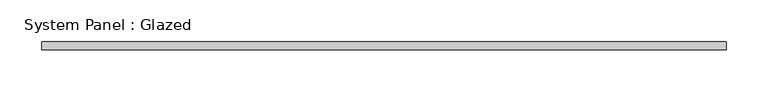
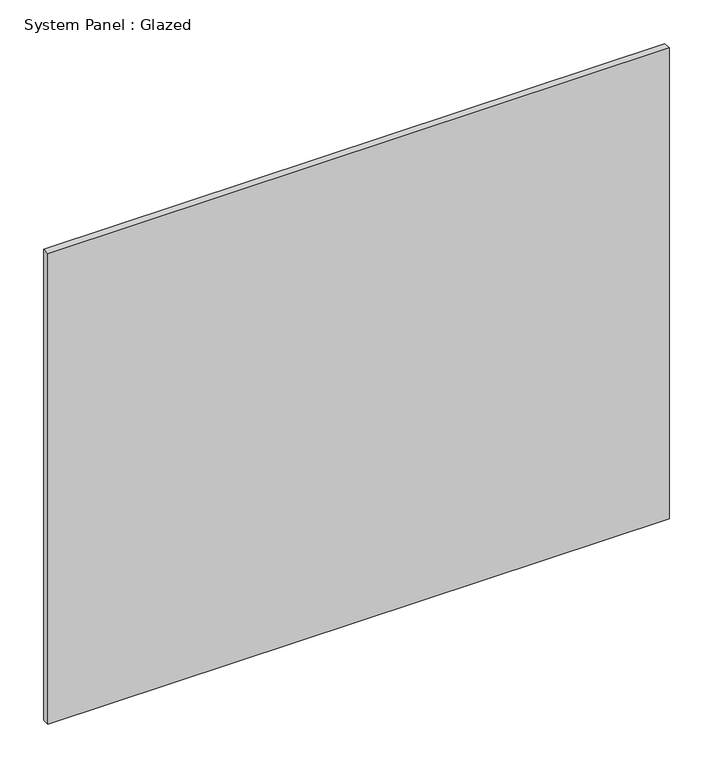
"""IFC4 building model written with IfcOpenShell, lengths in millimetres: plate geometry, System Panel : Glazed."""

import ifcopenshell
import ifcopenshell.guid

model = None  # the IFC model being written
_history = None  # IfcOwnerHistory: only IFC2X3 demands one
_inside = {}  # id of a spatial element -> (the spatial element, [elements in it])
_under = {}  # id of a project, library or spatial element -> (it, [spatial elements below it])
_declared = {}  # id of a project -> (the project, [libraries it declares])
_typed = {}  # id of a type object -> (the type object, [elements of that type])
_made_of = {}  # id of a material, layer set ... -> (it, [elements and type objects made of it])


def new_model(schema):
    """Start an empty IFC model of exactly this schema.

    Asked for "IFC4X3", IfcOpenShell would pick the latest addendum, in which some entities
    have other attributes; the version numbers below select the first issue.
    IFC2X3 requires an IfcOwnerHistory on every rooted entity: one is made here for all.
    """
    global model, _history
    if schema == "IFC4X3":
        model = ifcopenshell.file(schema_version=(4, 3, 0, 0))
    else:
        model = ifcopenshell.file(schema=schema)
    _inside.clear()
    _under.clear()
    _declared.clear()
    _typed.clear()
    _made_of.clear()
    _history = None
    if model.schema == "IFC2X3":
        org = make("IfcOrganization", Name="unknown")
        user = make(
            "IfcPersonAndOrganization",
            ThePerson=make("IfcPerson", FamilyName="unknown"),
            TheOrganization=org,
        )
        app = make(
            "IfcApplication",
            ApplicationDeveloper=org,
            Version="unknown",
            ApplicationFullName="unknown",
            ApplicationIdentifier="unknown",
        )
        _history = make(
            "IfcOwnerHistory",
            OwningUser=user,
            OwningApplication=app,
            ChangeAction="ADDED",
            CreationDate=0,
        )
    return model


def make(cls, **values):
    """One entity of the class cls with the attributes given. An attribute that is None is left unset."""
    return model.create_entity(
        cls, **{name: value for name, value in values.items() if value is not None}
    )


def rooted(cls, **values):
    """An entity with a GlobalId (a new one), such as an element, a storey or a relation."""
    return make(cls, GlobalId=ifcopenshell.guid.new(), OwnerHistory=_history, **values)


def si_unit(unit_type, name, prefix=None):
    """IfcSIUnit, for example si_unit("LENGTHUNIT", "METRE", prefix="MILLI")."""
    return make("IfcSIUnit", UnitType=unit_type, Prefix=prefix, Name=name)


def assignment(units):
    """IfcUnitAssignment: the units of a project."""
    return None if units is None else make("IfcUnitAssignment", Units=units)


def point(xyz):
    """IfcCartesianPoint."""
    return None if xyz is None else make("IfcCartesianPoint", Coordinates=xyz)


def direction(xyz):
    """IfcDirection."""
    return None if xyz is None else make("IfcDirection", DirectionRatios=xyz)


def frame(location, z_axis=None, x_axis=None):
    """IfcAxis2Placement3D, a coordinate frame: its origin and axes. An axis left out is left unset."""
    return make(
        "IfcAxis2Placement3D",
        Location=point(location),
        Axis=direction(z_axis),
        RefDirection=direction(x_axis),
    )


def origin():
    """The frame at (0, 0, 0) with its axes left unset."""
    return frame((0.0, 0.0, 0.0))


def origin_with_axes():
    """The frame at (0, 0, 0) with the z axis (0, 0, 1) and the x axis (1, 0, 0) written out."""
    return frame((0.0, 0.0, 0.0), z_axis=(0.0, 0.0, 1.0), x_axis=(1.0, 0.0, 0.0))


def place(relative_to, where):
    """IfcLocalPlacement: puts the frame where relative to a parent placement (None: the world)."""
    return make(
        "IfcLocalPlacement", PlacementRelTo=relative_to, RelativePlacement=where
    )


def context(
    kind, dimensions, precision=None, world=None, true_north=None, identifier=None
):
    """IfcGeometricRepresentationContext, for example the 3D "Model" context."""
    return make(
        "IfcGeometricRepresentationContext",
        ContextIdentifier=identifier,
        ContextType=kind,
        CoordinateSpaceDimension=dimensions,
        Precision=precision,
        WorldCoordinateSystem=world,
        TrueNorth=true_north,
    )


def project(units=None, contexts=None):
    """IfcProject with its units and contexts."""
    return rooted(
        "IfcProject",
        Name="project",
        RepresentationContexts=contexts,
        UnitsInContext=assignment(units),
    )


def spatial(cls, under=None, at=None, **own):
    """A site, building, storey or space (cls), placed at a placement, below another one or the project."""
    s = rooted(cls, ObjectPlacement=at, **own)
    if under is not None:
        _under.setdefault(under.id(), (under, []))[1].append(s)
    return s


def polyline(points):
    """IfcPolyline through the points."""
    return make("IfcPolyline", Points=[point(p) for p in points])


def outline(outer, holes=None, kind="AREA"):
    """IfcArbitraryClosedProfileDef: a profile drawn as a closed curve; with holes, ...WithVoids."""
    if holes is None:
        return make("IfcArbitraryClosedProfileDef", ProfileType=kind, OuterCurve=outer)
    return make(
        "IfcArbitraryProfileDefWithVoids",
        ProfileType=kind,
        OuterCurve=outer,
        InnerCurves=holes,
    )


def extrude(swept, where, along, depth):
    """IfcExtrudedAreaSolid: the profile swept, set in the frame where, extruded along a direction by depth."""
    return make(
        "IfcExtrudedAreaSolid",
        SweptArea=swept,
        Position=where,
        ExtrudedDirection=direction(along),
        Depth=depth,
    )


def shape(context_of_items, identifier, shape_type, items):
    """IfcShapeRepresentation: the items that make up one representation, for example the "Body"."""
    return make(
        "IfcShapeRepresentation",
        ContextOfItems=context_of_items,
        RepresentationIdentifier=identifier,
        RepresentationType=shape_type,
        Items=items,
    )


def source(mapping_origin, context_of_items, identifier, shape_type, items):
    """IfcRepresentationMap: a shape defined once, which mapped items show again and again."""
    return make(
        "IfcRepresentationMap",
        MappingOrigin=mapping_origin,
        MappedRepresentation=shape(context_of_items, identifier, shape_type, items),
    )


def transform(
    local_origin,
    x_axis=None,
    y_axis=None,
    z_axis=None,
    scale=None,
    scale2=None,
    scale3=None,
    uniform=True,
):
    """IfcCartesianTransformationOperator3D, or its non-uniform kind. x_axis, y_axis, z_axis: its Axis1, 2, 3."""
    if uniform:
        return make(
            "IfcCartesianTransformationOperator3D",
            Axis1=direction(x_axis),
            Axis2=direction(y_axis),
            LocalOrigin=point(local_origin),
            Scale=scale,
            Axis3=direction(z_axis),
        )
    return make(
        "IfcCartesianTransformationOperator3DnonUniform",
        Axis1=direction(x_axis),
        Axis2=direction(y_axis),
        LocalOrigin=point(local_origin),
        Scale=scale,
        Axis3=direction(z_axis),
        Scale2=scale2,
        Scale3=scale3,
    )


def mapped(mapping_source, mapping_target):
    """IfcMappedItem: shows the shape of a source again, moved by a transform."""
    return make(
        "IfcMappedItem", MappingSource=mapping_source, MappingTarget=mapping_target
    )


def made_of(thing, what):
    """Note that an element or type object is made of a material, layer set ...; save() writes the relation."""
    if what is not None:
        _made_of.setdefault(what.id(), (what, []))[1].append(thing)
    return thing


def element(
    cls,
    number,
    at=None,
    inside=None,
    cuts=None,
    type_object=None,
    material=None,
    context=None,
    identifier="Body",
    shape_type=None,
    held_by="IfcProductDefinitionShape",
    body=None,
    shapes=None,
    **own,
):
    """One element of the class cls, such as IfcWall. Its Tag is "e" and its number.

    at: its placement. inside: the storey or other place that contains it. cuts: it is an
    opening in that element (IfcRelVoidsElement). A single representation is given by context,
    identifier, shape_type and body (its items); several are given by shapes. held_by: the class
    of the entity that holds the representations. save() writes the other relations.
    """
    e = rooted(cls, Tag="e%d" % number, ObjectPlacement=at, **own)
    if body is not None:
        shapes = [shape(context, identifier, shape_type, body)]
    if shapes is not None:
        e.Representation = make(held_by, Representations=shapes)
    if inside is not None:
        _inside.setdefault(inside.id(), (inside, []))[1].append(e)
    if cuts is not None:
        rooted(
            "IfcRelVoidsElement", RelatingBuildingElement=cuts, RelatedOpeningElement=e
        )
    if type_object is not None:
        _typed.setdefault(type_object.id(), (type_object, []))[1].append(e)
    return made_of(e, material)


def aggregate(whole, parts):
    """IfcRelAggregates: a whole, such as a stair, and the parts it consists of."""
    return rooted("IfcRelAggregates", RelatingObject=whole, RelatedObjects=parts)


def save(model, path):
    """Write the relations noted so far, then the file.

    IfcRelAggregates (storeys below a building ...), IfcRelContainedInSpatialStructure (elements
    in a storey), IfcRelDefinesByType, IfcRelAssociatesMaterial and IfcRelDeclares: one each for
    every whole, place, type object, material and project.
    """
    for whole, parts in _under.values():
        aggregate(whole, parts)
    for where, things in _inside.values():
        rooted(
            "IfcRelContainedInSpatialStructure",
            RelatedElements=things,
            RelatingStructure=where,
        )
    for kind, things in _typed.values():
        rooted("IfcRelDefinesByType", RelatedObjects=things, RelatingType=kind)
    for what, things in _made_of.values():
        rooted("IfcRelAssociatesMaterial", RelatedObjects=things, RelatingMaterial=what)
    for by, libraries in _declared.values():
        rooted("IfcRelDeclares", RelatingContext=by, RelatedDefinitions=libraries)
    model.write(path)


def system_panel_glazed_b04dbc7e(model_context):
    return source(origin(), model_context, "Body", "SweptSolid", [
        extrude(outline(polyline([(412.0218271, -5.0), (-412.0218271, -5.0), (-412.0218271, 5.0), (412.0218271, 5.0), (412.0218271, -5.0)])), origin_with_axes(), (0.0, 0.0, 1.0), 660.0),
    ])


if __name__ == "__main__":
    model = new_model("IFC4")
    model_context = context("Model", 3, world=origin())
    ifc_project = project(units=[si_unit("LENGTHUNIT", "METRE", prefix="MILLI")], contexts=[model_context])
    site = spatial("IfcSite", under=ifc_project)
    building = spatial("IfcBuilding", under=site)
    placement = place(None, origin())
    system_panel_glazed_shape = system_panel_glazed_b04dbc7e(model_context)
    element("IfcPlate", 1, ObjectType="System Panel : Glazed", at=placement, inside=building, context=model_context, shape_type="MappedRepresentation", body=[
        mapped(system_panel_glazed_shape, transform((0.0, 0.0, 0.0), x_axis=(1.0, 0.0, 0.0), y_axis=(0.0, 1.0, 0.0), z_axis=(0.0, 0.0, 1.0))),
    ])
    save(model, "model.ifc")
